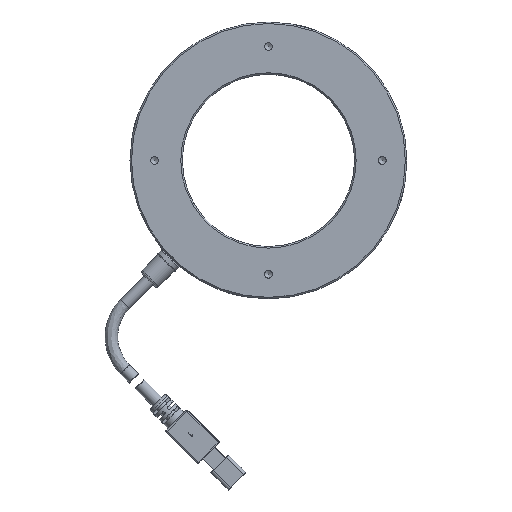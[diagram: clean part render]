
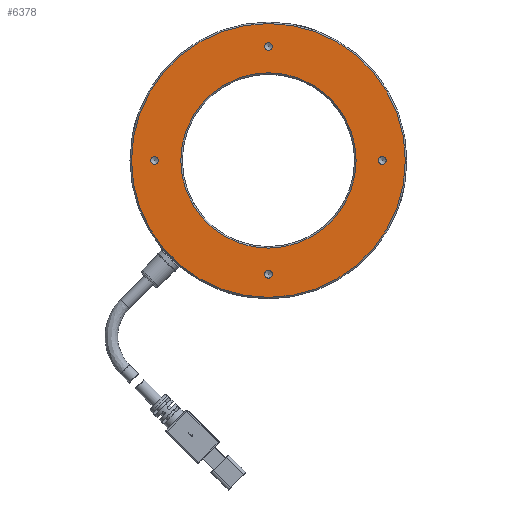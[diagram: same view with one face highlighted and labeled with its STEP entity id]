
A CAD part, front view. The second image highlights one B-rep face of the part: STEP entity #6378.
In plain terms, the highlighted planar face has unit normal (0, -1, 0).
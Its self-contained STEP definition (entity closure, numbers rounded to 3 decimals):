
#85 = EDGE_LOOP ( 'NONE', ( #7249 ) ) ;
#182 = DIRECTION ( 'NONE',  ( 0., 0., 1. ) ) ;
#334 = CARTESIAN_POINT ( 'NONE',  ( 0., 21.931, 0. ) ) ;
#405 = DIRECTION ( 'NONE',  ( 0., 0., 1. ) ) ;
#833 = EDGE_CURVE ( 'NONE', #6225, #6225, #7468, .T. ) ;
#936 = DIRECTION ( 'NONE',  ( 0., 1., 0. ) ) ;
#1108 = FACE_BOUND ( 'NONE', #8675, .T. ) ;
#1866 = DIRECTION ( 'NONE',  ( 0., 1., 0. ) ) ;
#2122 = CIRCLE ( 'NONE', #5633, 28.5 ) ;
#2424 = EDGE_LOOP ( 'NONE', ( #7946 ) ) ;
#2681 = DIRECTION ( 'NONE',  ( 0., 1., 0. ) ) ;
#2761 = CARTESIAN_POINT ( 'NONE',  ( -37., 21.931, 1.25 ) ) ;
#2855 = CARTESIAN_POINT ( 'NONE',  ( -28., 21.931, 0. ) ) ;
#2898 = DIRECTION ( 'NONE',  ( 0., -1., 0. ) ) ;
#2900 = AXIS2_PLACEMENT_3D ( 'NONE', #334, #9713, #11902 ) ;
#3196 = CARTESIAN_POINT ( 'NONE',  ( 0., 21.931, 44.5 ) ) ;
#3212 = CIRCLE ( 'NONE', #14583, 1.25 ) ;
#3301 = DIRECTION ( 'NONE',  ( 0., 1., 0. ) ) ;
#3354 = DIRECTION ( 'NONE',  ( 0., 0., 1. ) ) ;
#3421 = AXIS2_PLACEMENT_3D ( 'NONE', #13864, #936, #7956 ) ;
#3652 = ORIENTED_EDGE ( 'NONE', *, *, #833, .F. ) ;
#3691 = FACE_BOUND ( 'NONE', #2424, .T. ) ;
#3760 = CARTESIAN_POINT ( 'NONE',  ( 0., 21.931, 37. ) ) ;
#3845 = VERTEX_POINT ( 'NONE', #12680 ) ;
#3869 = FACE_BOUND ( 'NONE', #11992, .T. ) ;
#3961 = CARTESIAN_POINT ( 'NONE',  ( -37., 21.931, 0. ) ) ;
#3988 = ORIENTED_EDGE ( 'NONE', *, *, #4212, .F. ) ;
#4114 = CIRCLE ( 'NONE', #14826, 1.25 ) ;
#4119 = CARTESIAN_POINT ( 'NONE',  ( 0., 21.931, 0. ) ) ;
#4212 = EDGE_CURVE ( 'NONE', #3845, #3845, #2122, .T. ) ;
#4342 = DIRECTION ( 'NONE',  ( 0., 0., 1. ) ) ;
#4367 = EDGE_CURVE ( 'NONE', #7676, #7676, #4114, .T. ) ;
#4641 = ORIENTED_EDGE ( 'NONE', *, *, #14695, .T. ) ;
#5160 = EDGE_LOOP ( 'NONE', ( #14674 ) ) ;
#5162 = CIRCLE ( 'NONE', #3421, 1.25 ) ;
#5271 = AXIS2_PLACEMENT_3D ( 'NONE', #2855, #1866, #4342 ) ;
#5633 = AXIS2_PLACEMENT_3D ( 'NONE', #4119, #2898, #13313 ) ;
#6225 = VERTEX_POINT ( 'NONE', #3196 ) ;
#6238 = AXIS2_PLACEMENT_3D ( 'NONE', #3760, #6252, #182 ) ;
#6252 = DIRECTION ( 'NONE',  ( 0., 1., 0. ) ) ;
#6321 = PLANE ( 'NONE',  #5271 ) ;
#6378 = ADVANCED_FACE ( 'NONE', ( #7508, #3869, #7889, #13177, #3691, #1108 ), #6321, .F. ) ;
#6750 = EDGE_CURVE ( 'NONE', #8414, #8414, #11148, .T. ) ;
#6957 = CARTESIAN_POINT ( 'NONE',  ( 0., 21.931, -37. ) ) ;
#7000 = EDGE_LOOP ( 'NONE', ( #3652 ) ) ;
#7249 = ORIENTED_EDGE ( 'NONE', *, *, #11377, .T. ) ;
#7461 = CARTESIAN_POINT ( 'NONE',  ( 37., 21.931, 1.25 ) ) ;
#7468 = CIRCLE ( 'NONE', #2900, 44.5 ) ;
#7508 = FACE_OUTER_BOUND ( 'NONE', #7000, .T. ) ;
#7676 = VERTEX_POINT ( 'NONE', #15025 ) ;
#7889 = FACE_BOUND ( 'NONE', #5160, .T. ) ;
#7946 = ORIENTED_EDGE ( 'NONE', *, *, #4367, .T. ) ;
#7956 = DIRECTION ( 'NONE',  ( 0., 0., 1. ) ) ;
#8414 = VERTEX_POINT ( 'NONE', #12730 ) ;
#8501 = VERTEX_POINT ( 'NONE', #2761 ) ;
#8675 = EDGE_LOOP ( 'NONE', ( #4641 ) ) ;
#9713 = DIRECTION ( 'NONE',  ( 0., 1., 0. ) ) ;
#11148 = CIRCLE ( 'NONE', #6238, 1.25 ) ;
#11377 = EDGE_CURVE ( 'NONE', #8501, #8501, #3212, .T. ) ;
#11594 = VERTEX_POINT ( 'NONE', #7461 ) ;
#11902 = DIRECTION ( 'NONE',  ( 0., 0., 1. ) ) ;
#11992 = EDGE_LOOP ( 'NONE', ( #3988 ) ) ;
#12680 = CARTESIAN_POINT ( 'NONE',  ( 0., 21.931, -28.5 ) ) ;
#12730 = CARTESIAN_POINT ( 'NONE',  ( 0., 21.931, 38.25 ) ) ;
#13177 = FACE_BOUND ( 'NONE', #85, .T. ) ;
#13313 = DIRECTION ( 'NONE',  ( 0., 0., -1. ) ) ;
#13864 = CARTESIAN_POINT ( 'NONE',  ( 37., 21.931, 0. ) ) ;
#14583 = AXIS2_PLACEMENT_3D ( 'NONE', #3961, #2681, #405 ) ;
#14674 = ORIENTED_EDGE ( 'NONE', *, *, #6750, .T. ) ;
#14695 = EDGE_CURVE ( 'NONE', #11594, #11594, #5162, .T. ) ;
#14826 = AXIS2_PLACEMENT_3D ( 'NONE', #6957, #3301, #3354 ) ;
#15025 = CARTESIAN_POINT ( 'NONE',  ( 0., 21.931, -35.75 ) ) ;
